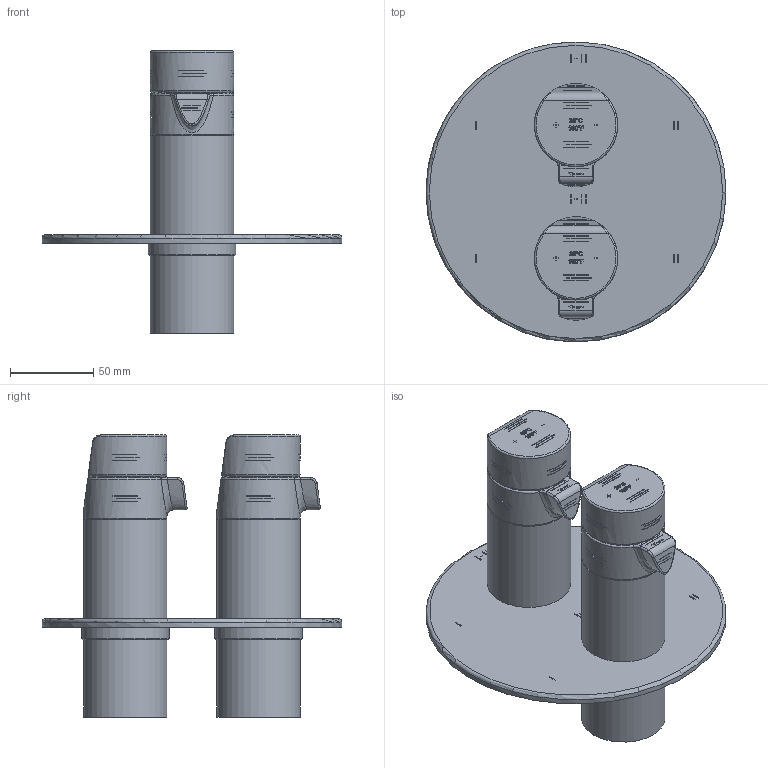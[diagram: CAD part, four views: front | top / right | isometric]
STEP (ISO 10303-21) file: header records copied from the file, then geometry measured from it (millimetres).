
FILE_DESCRIPTION(/* description */ (''),/* implementation_level */ '2;1');
FILE_NAME(/* name */ 'V:\Riobel\3Dfiles\PB83_3D.stp',/* time_stamp */ '2019-09-16T14:47:32-04:00',/* author */ ('pcossett'),/* organization */ (''),/* preprocessor_version */ 'ST-DEVELOPER v16.13',/* originating_system */ 'Autodesk Inventor 2018',/* authorisation */ '');
FILE_SCHEMA (('AUTOMOTIVE_DESIGN { 1 0 10303 214 3 1 1 }'));
Length unit declared in the file: millimetre
Products named in the file (1): PB83
Bounding box: 179.98 x 179.96 x 169.3 mm (x, y, z)
Volume: 637725 mm3; surface area: 137799.4 mm2
Topology: 3 solids, 3 shells, 830 faces, 2002 edges, 1314 vertices
Faces by surface type: plane 528, bspline 182, cylinder 81, torus 23, sphere 8, cone 8
Full cylindrical faces by diameter (mm): 4.134 x6, 25 x2, 25.2 x2, 32.2 x4, 34.3 x2, 42.5 x2, 46 x2, 50 x6, 52.5 x2, 180 x1
Entity records: 27173 total; most frequent: CARTESIAN_POINT 8197, ORIENTED_EDGE 3854, DIRECTION 3150, EDGE_CURVE 1927, VERTEX_POINT 1291, LINE 1282, VECTOR 1282, EDGE_LOOP 1030
